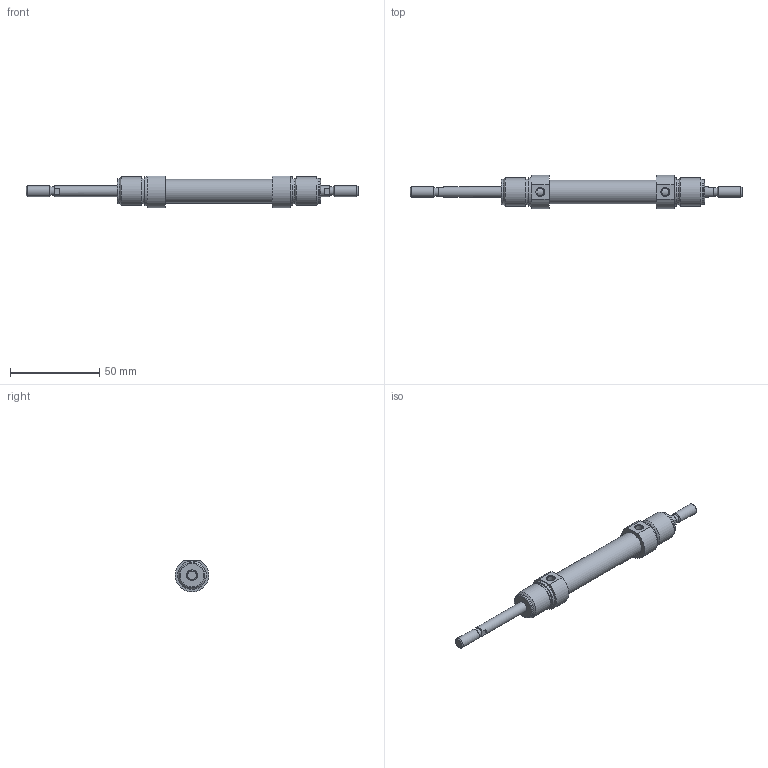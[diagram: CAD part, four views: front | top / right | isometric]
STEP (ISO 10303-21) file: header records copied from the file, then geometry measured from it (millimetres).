
FILE_DESCRIPTION( ( 'STEP AP203' ), '1' );
FILE_NAME( '//expscmdclustefs.cadenas.external/client_exchange/iodir/jobs/output/wkb68359021_no0/STEP/M101-012-0030--__0__2_03.stp', ' ', ( ' ' ), ( ' ' ), 'PSStep 15.0.47', 'PARTsolutions', ' ' );
FILE_SCHEMA( ( 'CONFIG_CONTROL_DESIGN' ) );
Length unit declared in the file: millimetre
Products named in the file (3): M101-012-0030-- [0]; HI_M101-012-0030---[0]-z; HI_M101-012-0030---[0]-k
Assembly tree (2 placements, depth 2):
  M101-012-0030-- [0]
    HI_M101-012-0030---[0]-z
    HI_M101-012-0030---[0]-k
Bounding box: 186 x 18.73 x 17.86 mm (x, y, z)
Volume: 19606.5 mm3; surface area: 13095.2 mm2
Topology: 2 solids, 2 shells, 65 faces, 129 edges, 80 vertices
Faces by surface type: plane 26, cylinder 23, cone 14, torus 2
Full cylindrical faces by diameter (mm): 4.134 x2, 4.773 x2, 6 x6, 12 x2, 13.3 x1, 14.16 x4, 16 x4
Entity records: 1670 total; most frequent: CARTESIAN_POINT 324, DIRECTION 280, ORIENTED_EDGE 184, AXIS2_PLACEMENT_3D 128, EDGE_LOOP 116, EDGE_CURVE 92, FACE_OUTER_BOUND 88, VERTEX_POINT 76
